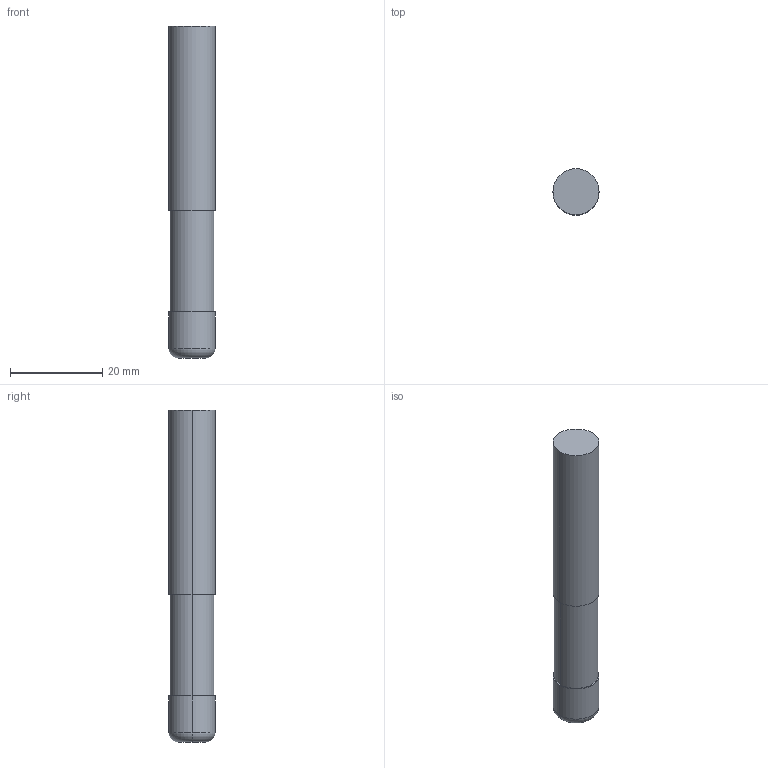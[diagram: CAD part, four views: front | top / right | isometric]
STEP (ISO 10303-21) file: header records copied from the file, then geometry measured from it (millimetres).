
FILE_DESCRIPTION(('STEP AP214'),'1');
FILE_NAME('cctmp_ED740BFB-79AC-4E0F-AE7F-FD1A4039270B_2020_10_01_07_14_50_0570..stp','2020-10-01T05:14:50',('Meusburger Georg GmbH & Co KG'),('CADClick - www.CADClick.com'),'Spatial InterOp 3D',' ','unknown authorization');
FILE_SCHEMA(('AUTOMOTIVE_DESIGN { 1 0 10303 214 1 1 1 1 }'));
Length unit declared in the file: millimetre
Products named in the file (1): WZF17418_10_2
Bounding box: 10 x 10 x 72 mm (x, y, z)
Volume: 5461.8 mm3; surface area: 2371 mm2
Topology: 1 solids, 1 shells, 12 faces, 22 edges, 14 vertices
Faces by surface type: cylinder 6, plane 4, torus 2
Entity records: 426 total; most frequent: DIRECTION 64, CARTESIAN_POINT 49, ORIENTED_EDGE 44, AXIS2_PLACEMENT_3D 29, EDGE_CURVE 22, CIRCLE 16, EDGE_LOOP 14, VERTEX_POINT 14
